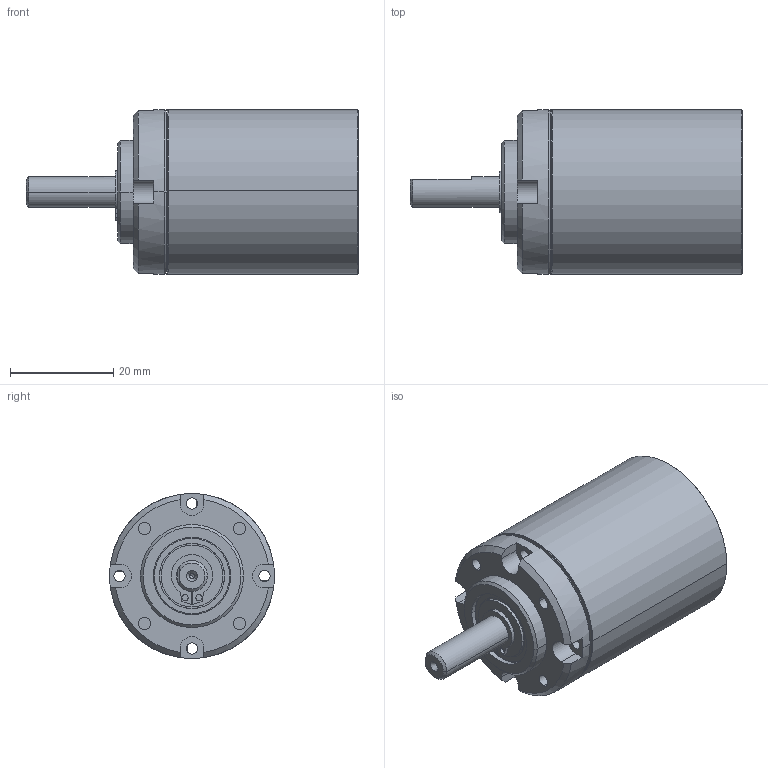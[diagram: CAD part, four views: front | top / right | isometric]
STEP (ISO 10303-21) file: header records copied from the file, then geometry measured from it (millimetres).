
FILE_DESCRIPTION((''),'2;1');
FILE_NAME('GP32BZ','2016-10-07T',('mmagpetk'),(''),'CREO PARAMETRIC BY PTC INC, 2016050','CREO PARAMETRIC BY PTC INC, 2016050','');
FILE_SCHEMA(('CONFIG_CONTROL_DESIGN'));
Length unit declared in the file: millimetre
Products named in the file (1): GP32BZ
Bounding box: 64.4 x 32 x 32 mm (x, y, z)
Volume: 35221.5 mm3; surface area: 8374.9 mm2
Topology: 1 solids, 1 shells, 158 faces, 363 edges, 229 vertices
Faces by surface type: cylinder 72, plane 48, cone 34, torus 4
Entity records: 6119 total; most frequent: DIRECTION 861, CARTESIAN_POINT 823, ORIENTED_EDGE 722, PRESENTATION_STYLE_ASSIGNMENT 408, STYLED_ITEM 362, CURVE_STYLE 361, EDGE_CURVE 361, AXIS2_PLACEMENT_3D 354
